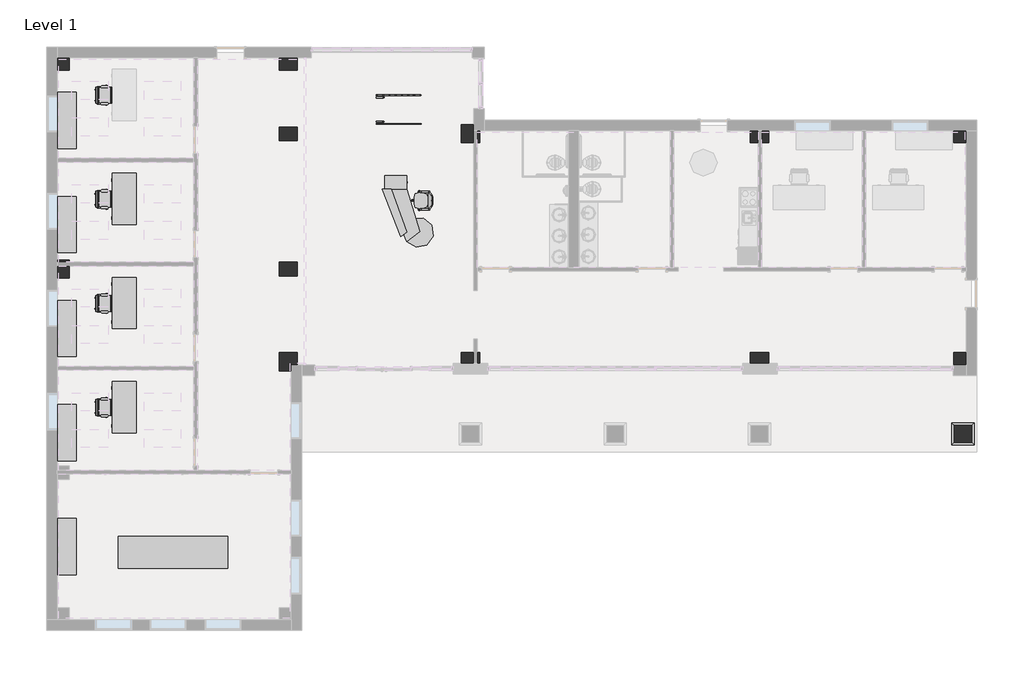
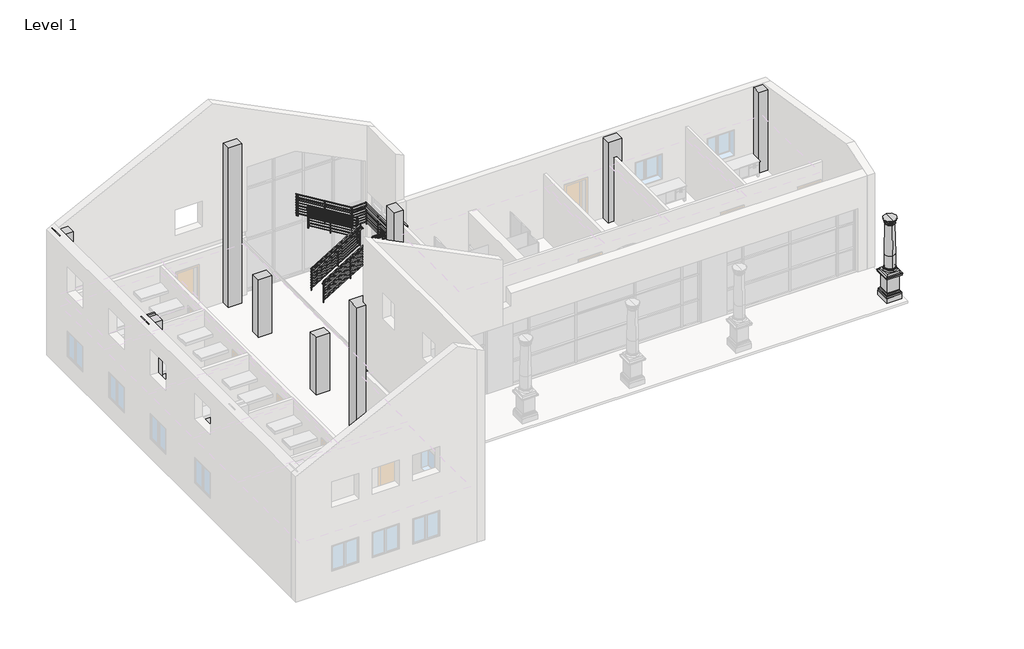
# One storey, part 7 of 8: 15 furniture elements, 13 columns, 2 railings.
"""IFC4 building model written with IfcOpenShell, lengths in millimetres."""

from ifc_helpers import new_model, si_unit, point, frame, origin, origin_with_axes, place, context, project, spatial, polyline, circle_curve, ellipse_curve, trimmed, outline, extrude, faceted_brep, transform, mapped, element, save
from ifc_brep_helpers import plane_surface, cylinder_surface, revolved_surface, advanced_brep
from components import chair_executive_chair_executive_8d69e98c, chair_task_arms_chair_task_arms_8395c10b, conference_table_complete_42_x_144_00e9c4b6, furniture_5a5a5c8e, desk_reception_desk_reception_8679d896, furniture_9d33da18, guardrail_pipe_b2484e20, guardrail_pipe_78582fdc

model = new_model("IFC4")

# Units and contexts
model_context = context("Model", 3, world=origin())
ifc_project = project(units=[si_unit("LENGTHUNIT", "METRE", prefix="MILLI")], contexts=[model_context])

# Site, building, storey
site = spatial("IfcSite", under=ifc_project)
building = spatial("IfcBuilding", under=site)
storey = spatial("IfcBuildingStorey", under=building, Name="Level 1", Elevation=0.0)

# Columns
placement = place(None, origin())
element("IfcColumn", 1, ObjectType="Doric Column : 16'  Height (10 2/3 x Dia.)", at=placement, inside=storey, context=model_context, shape_type="SolidModel", body=[
    extrude(outline(polyline([(16988.3733448, -1720.0769576), (16988.3733448, -2297.9269576), (16410.5233448, -2297.9269576), (16410.5233448, -1720.0769576), (16988.3733448, -1720.0769576)])), frame((0.0, 0.0, 1117.6), z_axis=(0.0, 0.0, 1.0), x_axis=(1.0, 0.0, 0.0)), (0.0, 0.0, 1.0), 107.95),
    faceted_brep([(16470.8483448, -2237.6019576, 1117.6), (16327.9733448, -2380.4769576, 1117.6), (17070.9233448, -2380.4769576, 1117.6), (16928.0483448, -2237.6019576, 1117.6), (16470.8483448, -2237.6019576, 1003.3), (16928.0483448, -2237.6019576, 1003.3), (16399.5654277, -2308.8848746, 1003.3), (16999.3312619, -2308.8848746, 1003.3), (16366.0733448, -2342.3769576, 1028.7), (17032.8233448, -2342.3769576, 1028.7), (16340.6733448, -2367.7769576, 1028.7), (17058.2233448, -2367.7769576, 1028.7), (16340.6733448, -2367.7769576, 1092.2), (17058.2233448, -2367.7769576, 1092.2), (16327.9733448, -2380.4769576, 1092.2), (17070.9233448, -2380.4769576, 1092.2), (17070.9233448, -1637.5269576, 1117.6), (16928.0483448, -1780.4019576, 1117.6), (16928.0483448, -1780.4019576, 1003.3), (16999.3312619, -1709.1190405, 1003.3), (17032.8233448, -1675.6269576, 1028.7), (17058.2233448, -1650.2269576, 1028.7), (17058.2233448, -1650.2269576, 1092.2), (17070.9233448, -1637.5269576, 1092.2), (16327.9733448, -1637.5269576, 1117.6), (16470.8483448, -1780.4019576, 1117.6), (16470.8483448, -1780.4019576, 1003.3), (16399.5654277, -1709.1190405, 1003.3), (16366.0733448, -1675.6269576, 1028.7), (16340.6733448, -1650.2269576, 1028.7), (16340.6733448, -1650.2269576, 1092.2), (16327.9733448, -1637.5269576, 1092.2)], [[[0, 1, 2, 3]], [[4, 0, 3, 5]], [[6, 4, 5, 7]], [[8, 6, 7, 9]], [[10, 8, 9, 11]], [[12, 10, 11, 13]], [[14, 12, 13, 15]], [[1, 14, 15, 2]], [[3, 2, 16, 17]], [[5, 3, 17, 18]], [[7, 5, 18, 19]], [[9, 7, 19, 20]], [[11, 9, 20, 21]], [[13, 11, 21, 22]], [[15, 13, 22, 23]], [[2, 15, 23, 16]], [[17, 16, 24, 25]], [[18, 17, 25, 26]], [[19, 18, 26, 27]], [[20, 19, 27, 28]], [[21, 20, 28, 29]], [[22, 21, 29, 30]], [[23, 22, 30, 31]], [[16, 23, 31, 24]], [[25, 24, 1, 0]], [[26, 25, 0, 4]], [[27, 26, 4, 6]], [[28, 27, 6, 8]], [[29, 28, 8, 10]], [[30, 29, 10, 12]], [[31, 30, 12, 14]], [[24, 31, 14, 1]]]),
    advanced_brep(
    [(16699.4483448, -2256.6519576, 1358.9), (16699.4483448, -1761.3519576, 1358.9), (16699.4483448, -1780.4019576, 1377.95), (16699.4483448, -2237.6019576, 1377.95), (16699.4483448, -1780.4019576, 1976.4375), (16699.4483448, -2237.6019576, 1976.4375), (16699.4483448, -2256.6519576, 1339.85), (16699.4483448, -1761.3519576, 1339.85), (16699.4483448, -2256.6519576, 1308.1), (16699.4483448, -1761.3519576, 1308.1), (16699.4483448, -2256.6519576, 1225.55), (16699.4483448, -1761.3519576, 1225.55), (16699.4483448, -2009.0019576, 1225.55), (16699.4483448, -1808.9769576, 3440.1125), (16699.4483448, -2209.0269576, 3440.1125), (16699.4483448, -2301.1019576, 3675.0625601), (16699.4483448, -1716.9019576, 3675.0625601), (16699.4483448, -1716.9019576, 3694.1125), (16699.4483448, -2301.1019576, 3694.1125), (16699.4483448, -2009.0019576, 3694.1125), (16699.4483448, -2282.0518974, 3656.0125), (16699.4483448, -1735.9520177, 3656.0125), (16699.4483448, -2278.8769576, 3656.0125), (16699.4483448, -1739.1269576, 3656.0125), (16699.4483448, -2278.8769576, 3605.2125), (16699.4483448, -1739.1269576, 3605.2125), (16699.4483448, -2272.5269576, 3605.2125), (16699.4483448, -1745.4769576, 3605.2125), (16699.4483448, -2228.0769576, 3560.7625), (16699.4483448, -1789.9269576, 3560.7625), (16699.4483448, -2228.0769576, 3541.7125), (16699.4483448, -1789.9269576, 3541.7125), (16699.4483448, -2209.0269576, 3541.7125), (16699.4483448, -1808.9769576, 3541.7125), (16699.4483448, -2209.0269576, 3459.1625), (16699.4483448, -1808.9769576, 3459.1625), (16699.4483448, -2228.0769576, 3459.1625), (16699.4483448, -1789.9269576, 3459.1625), (16699.4483448, -2228.0769576, 3440.1125), (16699.4483448, -1789.9269576, 3440.1125)],
    [
        (0, 1, circle_curve(frame((16699.4483448, -2009.0019576, 1358.9), z_axis=(0.0, 0.0, 1.0), x_axis=(0.0, 1.0, 0.0)), 247.65)),
        (1, 2, circle_curve(frame((16699.4483448, -1761.3519576, 1377.95), z_axis=(-1.0, 0.0, 0.0), x_axis=(0.0, -1.0, 0.0)), 19.05)),
        (2, 3, circle_curve(frame((16699.4483448, -2009.0019576, 1377.95), z_axis=(0.0, 0.0, -1.0), x_axis=(0.0, 1.0, 0.0)), 228.6)),
        (3, 0, circle_curve(frame((16699.4483448, -2256.6519576, 1377.95), z_axis=(-1.0, 0.0, 0.0), x_axis=(0.0, 1.0, 0.0)), 19.05)),
        (2, 4),
        (4, 5, circle_curve(frame((16699.4483448, -2009.0019576, 1976.4375), z_axis=(0.0, 0.0, -1.0), x_axis=(0.0, 1.0, 0.0)), 228.6)),
        (5, 3),
        (2, 3, circle_curve(frame((16699.4483448, -2009.0019576, 1377.95), z_axis=(0.0, 0.0, 1.0), x_axis=(0.0, 1.0, 0.0)), 228.6)),
        (5, 4, circle_curve(frame((16699.4483448, -2009.0019576, 1976.4375), z_axis=(0.0, 0.0, -1.0), x_axis=(0.0, 1.0, 0.0)), 228.6)),
        (1, 0, circle_curve(frame((16699.4483448, -2009.0019576, 1358.9), z_axis=(0.0, 0.0, 1.0), x_axis=(0.0, 1.0, 0.0)), 247.65)),
        (6, 7, circle_curve(frame((16699.4483448, -2009.0019576, 1339.85), z_axis=(0.0, 0.0, 1.0), x_axis=(0.0, 1.0, 0.0)), 247.65)),
        (7, 1),
        (0, 6),
        (7, 6, circle_curve(frame((16699.4483448, -2009.0019576, 1339.85), z_axis=(0.0, 0.0, 1.0), x_axis=(0.0, 1.0, 0.0)), 247.65)),
        (8, 9, circle_curve(frame((16699.4483448, -2009.0019576, 1308.1), z_axis=(0.0, 0.0, 1.0), x_axis=(0.0, 1.0, 0.0)), 247.65)),
        (9, 7, circle_curve(frame((16699.4483448, -1761.3519576, 1323.975), z_axis=(1.0, 0.0, 0.0), x_axis=(0.0, -1.0, 0.0)), 15.875)),
        (6, 8, circle_curve(frame((16699.4483448, -2256.6519576, 1323.975), z_axis=(1.0, 0.0, 0.0), x_axis=(0.0, 1.0, 0.0)), 15.875)),
        (9, 8, circle_curve(frame((16699.4483448, -2009.0019576, 1308.1), z_axis=(0.0, 0.0, 1.0), x_axis=(0.0, 1.0, 0.0)), 247.65)),
        (10, 11, circle_curve(frame((16699.4483448, -2009.0019576, 1225.55), z_axis=(0.0, 0.0, 1.0), x_axis=(0.0, 1.0, 0.0)), 247.65)),
        (11, 9, circle_curve(frame((16699.4483448, -1761.3519576, 1266.825), z_axis=(1.0, 0.0, 0.0), x_axis=(0.0, -1.0, 0.0)), 41.275)),
        (8, 10, circle_curve(frame((16699.4483448, -2256.6519576, 1266.825), z_axis=(1.0, 0.0, 0.0), x_axis=(0.0, 1.0, 0.0)), 41.275)),
        (11, 10, circle_curve(frame((16699.4483448, -2009.0019576, 1225.55), z_axis=(0.0, 0.0, 1.0), x_axis=(0.0, 1.0, 0.0)), 247.65)),
        (12, 11),
        (10, 12),
        (4, 13),
        (13, 14, circle_curve(frame((16699.4483448, -2009.0019576, 3440.1125), z_axis=(0.0, 0.0, -1.0), x_axis=(0.0, 1.0, 0.0)), 200.025)),
        (14, 5),
        (14, 13, circle_curve(frame((16699.4483448, -2009.0019576, 3440.1125), z_axis=(0.0, 0.0, -1.0), x_axis=(0.0, 1.0, 0.0)), 200.025)),
        (15, 16, circle_curve(frame((16699.4483448, -2009.0019576, 3675.0625601), z_axis=(0.0, 0.0, 1.0), x_axis=(0.0, 1.0, 0.0)), 292.1)),
        (16, 17),
        (17, 18, circle_curve(frame((16699.4483448, -2009.0019576, 3694.1125), z_axis=(0.0, 0.0, -1.0), x_axis=(0.0, 1.0, 0.0)), 292.1)),
        (18, 15),
        (17, 19),
        (19, 18),
        (17, 18, circle_curve(frame((16699.4483448, -2009.0019576, 3694.1125), z_axis=(0.0, 0.0, 1.0), x_axis=(0.0, 1.0, 0.0)), 292.1)),
        (16, 15, circle_curve(frame((16699.4483448, -2009.0019576, 3675.0625601), z_axis=(0.0, 0.0, 1.0), x_axis=(0.0, 1.0, 0.0)), 292.1)),
        (20, 21, circle_curve(frame((16699.4483448, -2009.0019576, 3656.0125), z_axis=(0.0, 0.0, 1.0), x_axis=(0.0, 1.0, 0.0)), 273.0499399)),
        (21, 16, circle_curve(frame((16699.4483448, -1716.9019576, 3656.0125), z_axis=(-1.0, 0.0, 0.0), x_axis=(0.0, -1.0, 0.0)), 19.0500601)),
        (15, 20, circle_curve(frame((16699.4483448, -2301.1019576, 3656.0125), z_axis=(-1.0, 0.0, 0.0), x_axis=(0.0, 1.0, 0.0)), 19.0500601)),
        (21, 20, circle_curve(frame((16699.4483448, -2009.0019576, 3656.0125), z_axis=(0.0, 0.0, 1.0), x_axis=(0.0, 1.0, 0.0)), 273.0499399)),
        (22, 23, circle_curve(frame((16699.4483448, -2009.0019576, 3656.0125), z_axis=(0.0, 0.0, 1.0), x_axis=(0.0, 1.0, 0.0)), 269.875)),
        (23, 21),
        (20, 22),
        (23, 22, circle_curve(frame((16699.4483448, -2009.0019576, 3656.0125), z_axis=(0.0, 0.0, 1.0), x_axis=(0.0, 1.0, 0.0)), 269.875)),
        (24, 25, circle_curve(frame((16699.4483448, -2009.0019576, 3605.2125), z_axis=(0.0, 0.0, 1.0), x_axis=(0.0, 1.0, 0.0)), 269.875)),
        (25, 23),
        (22, 24),
        (25, 24, circle_curve(frame((16699.4483448, -2009.0019576, 3605.2125), z_axis=(0.0, 0.0, 1.0), x_axis=(0.0, 1.0, 0.0)), 269.875)),
        (26, 27, circle_curve(frame((16699.4483448, -2009.0019576, 3605.2125), z_axis=(0.0, 0.0, 1.0), x_axis=(0.0, 1.0, 0.0)), 263.525)),
        (27, 25),
        (24, 26),
        (27, 26, circle_curve(frame((16699.4483448, -2009.0019576, 3605.2125), z_axis=(0.0, 0.0, 1.0), x_axis=(0.0, 1.0, 0.0)), 263.525)),
        (28, 29, circle_curve(frame((16699.4483448, -2009.0019576, 3560.7625), z_axis=(0.0, 0.0, 1.0), x_axis=(0.0, 1.0, 0.0)), 219.075)),
        (29, 27, circle_curve(frame((16699.4483448, -1789.9269576, 3605.2125), z_axis=(1.0, 0.0, 0.0), x_axis=(0.0, -1.0, 0.0)), 44.45)),
        (26, 28, circle_curve(frame((16699.4483448, -2228.0769576, 3605.2125), z_axis=(1.0, 0.0, 0.0), x_axis=(0.0, 1.0, 0.0)), 44.45)),
        (29, 28, circle_curve(frame((16699.4483448, -2009.0019576, 3560.7625), z_axis=(0.0, 0.0, 1.0), x_axis=(0.0, 1.0, 0.0)), 219.075)),
        (30, 31, circle_curve(frame((16699.4483448, -2009.0019576, 3541.7125), z_axis=(0.0, 0.0, 1.0), x_axis=(0.0, 1.0, 0.0)), 219.075)),
        (31, 29, circle_curve(frame((16699.4483448, -1789.9269576, 3551.2375), z_axis=(1.0, 0.0, 0.0), x_axis=(0.0, -1.0, 0.0)), 9.525)),
        (28, 30, circle_curve(frame((16699.4483448, -2228.0769576, 3551.2375), z_axis=(1.0, 0.0, 0.0), x_axis=(0.0, 1.0, 0.0)), 9.525)),
        (31, 30, circle_curve(frame((16699.4483448, -2009.0019576, 3541.7125), z_axis=(0.0, 0.0, 1.0), x_axis=(0.0, 1.0, 0.0)), 219.075)),
        (32, 33, circle_curve(frame((16699.4483448, -2009.0019576, 3541.7125), z_axis=(0.0, 0.0, 1.0), x_axis=(0.0, 1.0, 0.0)), 200.025)),
        (33, 31),
        (30, 32),
        (33, 32, circle_curve(frame((16699.4483448, -2009.0019576, 3541.7125), z_axis=(0.0, 0.0, 1.0), x_axis=(0.0, 1.0, 0.0)), 200.025)),
        (34, 35, circle_curve(frame((16699.4483448, -2009.0019576, 3459.1625), z_axis=(0.0, 0.0, 1.0), x_axis=(0.0, 1.0, 0.0)), 200.025)),
        (35, 33),
        (32, 34),
        (35, 34, circle_curve(frame((16699.4483448, -2009.0019576, 3459.1625), z_axis=(0.0, 0.0, 1.0), x_axis=(0.0, 1.0, 0.0)), 200.025)),
        (36, 37, circle_curve(frame((16699.4483448, -2009.0019576, 3459.1625), z_axis=(0.0, 0.0, 1.0), x_axis=(0.0, 1.0, 0.0)), 219.075)),
        (37, 35),
        (34, 36),
        (37, 36, circle_curve(frame((16699.4483448, -2009.0019576, 3459.1625), z_axis=(0.0, 0.0, 1.0), x_axis=(0.0, 1.0, 0.0)), 219.075)),
        (38, 39, circle_curve(frame((16699.4483448, -2009.0019576, 3440.1125), z_axis=(0.0, 0.0, 1.0), x_axis=(0.0, 1.0, 0.0)), 219.075)),
        (39, 37, circle_curve(frame((16699.4483448, -1789.9269576, 3449.6375), z_axis=(1.0, 0.0, 0.0), x_axis=(0.0, -1.0, 0.0)), 9.525)),
        (36, 38, circle_curve(frame((16699.4483448, -2228.0769576, 3449.6375), z_axis=(1.0, 0.0, 0.0), x_axis=(0.0, 1.0, 0.0)), 9.525)),
        (39, 38, circle_curve(frame((16699.4483448, -2009.0019576, 3440.1125), z_axis=(0.0, 0.0, 1.0), x_axis=(0.0, 1.0, 0.0)), 219.075)),
        (13, 39),
        (38, 14),
    ],
    [
        revolved_surface(trimmed(ellipse_curve(frame((16699.4483448, -1761.3519576, 1377.95), z_axis=(1.0, 0.0, 0.0), x_axis=(0.0, -1.0, 0.0)), 19.05, 19.05), [point((16699.4483448, -1780.4019576, 1377.95))], [point((16699.4483448, -1761.3519576, 1358.9))], True, "CARTESIAN"), (16699.4483448, -2009.0019576, 3694.1125), (0.0, 0.0, -1.0)),
        cylinder_surface(frame((16699.4483448, -2009.0019576, 3694.1125), z_axis=(0.0, 0.0, -1.0), x_axis=(0.0, 1.0, 0.0)), 228.6),
        cylinder_surface(frame((16699.4483448, -2009.0019576, 3694.1125), z_axis=(0.0, 0.0, -1.0), x_axis=(0.0, 1.0, 0.0)), 247.65),
        revolved_surface(trimmed(ellipse_curve(frame((16699.4483448, -1761.3519576, 1323.975), z_axis=(-1.0, 0.0, 0.0), x_axis=(0.0, -1.0, 0.0)), 15.875, 15.875), [point((16699.4483448, -1761.3519576, 1339.85))], [point((16699.4483448, -1761.3519576, 1308.1))], True, "CARTESIAN"), (16699.4483448, -2009.0019576, 3694.1125), (0.0, 0.0, -1.0)),
        revolved_surface(trimmed(ellipse_curve(frame((16699.4483448, -1761.3519576, 1266.825), z_axis=(-1.0, 0.0, 0.0), x_axis=(0.0, -1.0, 0.0)), 41.275, 41.275), [point((16699.4483448, -1761.3519576, 1308.1))], [point((16699.4483448, -1761.3519576, 1225.55))], True, "CARTESIAN"), (16699.4483448, -2009.0019576, 3694.1125), (0.0, 0.0, -1.0)),
        plane_surface(frame((16699.4483448, -2009.0019576, 1225.55), z_axis=(0.0, 0.0, -1.0), x_axis=(0.0, 1.0, 0.0))),
        revolved_surface(polyline([(16699.4483448, -1808.9769576, 3440.1125), (16699.4483448, -1780.4019576, 1976.4375)]), (16699.4483448, -2009.0019576, 3694.1125), (0.0, 0.0, -1.0)),
        cylinder_surface(frame((16699.4483448, -2009.0019576, 3694.1125), z_axis=(0.0, 0.0, -1.0), x_axis=(0.0, 1.0, 0.0)), 292.1),
        plane_surface(frame((16699.4483448, -2009.0019576, 3694.1125), z_axis=(0.0, 0.0, 1.0), x_axis=(0.0, 1.0, 0.0))),
        revolved_surface(trimmed(ellipse_curve(frame((16699.4483448, -1716.9019576, 3656.0125), z_axis=(1.0, 0.0, 0.0), x_axis=(0.0, -1.0, 0.0)), 19.0500601, 19.0500601), [point((16699.4483448, -1716.9019576, 3675.0625601))], [point((16699.4483448, -1735.9520177, 3656.0125))], True, "CARTESIAN"), (16699.4483448, -2009.0019576, 3694.1125), (0.0, 0.0, -1.0)),
        plane_surface(frame((16699.4483448, -2009.0019576, 3656.0125), z_axis=(0.0, 0.0, -1.0), x_axis=(0.0, 1.0, 0.0))),
        cylinder_surface(frame((16699.4483448, -2009.0019576, 3694.1125), z_axis=(0.0, 0.0, -1.0), x_axis=(0.0, 1.0, 0.0)), 269.875),
        plane_surface(frame((16699.4483448, -2009.0019576, 3605.2125), z_axis=(0.0, 0.0, -1.0), x_axis=(0.0, 1.0, 0.0))),
        revolved_surface(trimmed(ellipse_curve(frame((16699.4483448, -1789.9269576, 3605.2125), z_axis=(-1.0, 0.0, 0.0), x_axis=(0.0, -1.0, 0.0)), 44.45, 44.45), [point((16699.4483448, -1745.4769576, 3605.2125))], [point((16699.4483448, -1789.9269576, 3560.7625))], True, "CARTESIAN"), (16699.4483448, -2009.0019576, 3694.1125), (0.0, 0.0, -1.0)),
        revolved_surface(trimmed(ellipse_curve(frame((16699.4483448, -1789.9269576, 3551.2375), z_axis=(-1.0, 0.0, 0.0), x_axis=(0.0, -1.0, 0.0)), 9.525, 9.525), [point((16699.4483448, -1789.9269576, 3560.7625))], [point((16699.4483448, -1789.9269576, 3541.7125))], True, "CARTESIAN"), (16699.4483448, -2009.0019576, 3694.1125), (0.0, 0.0, -1.0)),
        plane_surface(frame((16699.4483448, -2009.0019576, 3541.7125), z_axis=(0.0, 0.0, -1.0), x_axis=(0.0, 1.0, 0.0))),
        cylinder_surface(frame((16699.4483448, -2009.0019576, 3694.1125), z_axis=(0.0, 0.0, -1.0), x_axis=(0.0, 1.0, 0.0)), 200.025),
        plane_surface(frame((16699.4483448, -2009.0019576, 3459.1625), z_axis=(0.0, 0.0, 1.0), x_axis=(0.0, 1.0, 0.0))),
        revolved_surface(trimmed(ellipse_curve(frame((16699.4483448, -1789.9269576, 3449.6375), z_axis=(-1.0, 0.0, 0.0), x_axis=(0.0, -1.0, 0.0)), 9.525, 9.525), [point((16699.4483448, -1789.9269576, 3459.1625))], [point((16699.4483448, -1789.9269576, 3440.1125))], True, "CARTESIAN"), (16699.4483448, -2009.0019576, 3694.1125), (0.0, 0.0, -1.0)),
        plane_surface(frame((16699.4483448, -2009.0019576, 3440.1125), z_axis=(0.0, 0.0, -1.0), x_axis=(0.0, 1.0, 0.0))),
    ],
    [
        (0, [[1, 2, 3, 4]]),
        (1, [[-3, 5, 6, 7]]),
        (1, [[8, -7, 9, -5]]),
        (0, [[10, -4, -8, -2]]),
        (2, [[11, 12, -1, 13]]),
        (2, [[14, -13, -10, -12]]),
        (3, [[15, 16, -11, 17]]),
        (3, [[18, -17, -14, -16]]),
        (4, [[19, 20, -15, 21]]),
        (4, [[22, -21, -18, -20]]),
        (5, [[23, -19, 24]]),
        (5, [[-24, -22, -23]]),
        (6, [[-6, 25, 26, 27]]),
        (6, [[-9, -27, 28, -25]]),
        (7, [[29, 30, 31, 32]]),
        (8, [[-31, 33, 34]]),
        (8, [[35, -34, -33]]),
        (7, [[36, -32, -35, -30]]),
        (9, [[37, 38, -29, 39]]),
        (9, [[40, -39, -36, -38]]),
        (10, [[41, 42, -37, 43]]),
        (10, [[44, -43, -40, -42]]),
        (11, [[45, 46, -41, 47]]),
        (11, [[48, -47, -44, -46]]),
        (12, [[49, 50, -45, 51]]),
        (12, [[52, -51, -48, -50]]),
        (13, [[53, 54, -49, 55]]),
        (13, [[56, -55, -52, -54]]),
        (14, [[57, 58, -53, 59]]),
        (14, [[60, -59, -56, -58]]),
        (15, [[61, 62, -57, 63]]),
        (15, [[64, -63, -60, -62]]),
        (16, [[65, 66, -61, 67]]),
        (16, [[68, -67, -64, -66]]),
        (17, [[69, 70, -65, 71]]),
        (17, [[72, -71, -68, -70]]),
        (18, [[73, 74, -69, 75]]),
        (18, [[76, -75, -72, -74]]),
        (19, [[-26, 77, -73, 78]]),
        (19, [[-28, -78, -76, -77]]),
    ],
),
    advanced_brep(
    [(17044.8934911, -1663.5568112, -101.6), (17044.8934911, -1663.5568112, 127.0), (17044.8934911, -2354.4471039, 127.0), (17044.8934911, -2354.4471039, -101.6), (16928.0483448, -1780.4019576, -101.6), (16928.0483448, -2237.6019576, -101.6), (16928.0483448, -1780.4019576, 317.5), (16928.0483448, -2237.6019576, 317.5), (16962.3434911, -1746.1068112, 317.5), (16962.3434911, -2271.8971039, 317.5), (16981.3934911, -1727.0568112, 298.45), (16981.3934911, -2290.9471039, 298.45), (16981.3934911, -1727.0568112, 279.4), (16981.3934911, -2290.9471039, 279.4), (17003.6184911, -1704.8318112, 257.175), (17003.6184911, -2313.1721039, 257.175), (17025.8434911, -1682.6068112, 234.95), (17025.8434911, -2335.3971039, 234.95), (17025.8434911, -1682.6068112, 215.9), (17025.8434911, -2335.3971039, 215.9), (17035.3684911, -1673.0818112, 215.9), (17035.3684911, -2344.9221039, 215.9), (17035.3684911, -1673.0818112, 127.0), (17035.3684911, -2344.9221039, 127.0), (16354.0031985, -2354.4471039, 127.0), (16354.0031985, -2354.4471039, -101.6), (16470.8483448, -2237.6019576, -101.6), (16470.8483448, -2237.6019576, 317.5), (16436.5531985, -2271.8971039, 317.5), (16417.5031985, -2290.9471039, 298.45), (16417.5031985, -2290.9471039, 279.4), (16395.2781985, -2313.1721039, 257.175), (16373.0531985, -2335.3971039, 234.95), (16373.0531985, -2335.3971039, 215.9), (16363.5281985, -2344.9221039, 215.9), (16363.5281985, -2344.9221039, 127.0), (16354.0031985, -1663.5568112, 127.0), (16354.0031985, -1663.5568112, -101.6), (16470.8483448, -1780.4019576, -101.6), (16470.8483448, -1780.4019576, 317.5), (16436.5531985, -1746.1068112, 317.5), (16417.5031985, -1727.0568112, 298.45), (16417.5031985, -1727.0568112, 279.4), (16395.2781985, -1704.8318112, 257.175), (16373.0531985, -1682.6068112, 234.95), (16373.0531985, -1682.6068112, 215.9), (16363.5281985, -1673.0818112, 215.9), (16363.5281985, -1673.0818112, 127.0)],
    [
        (0, 1),
        (1, 2),
        (2, 3),
        (3, 0),
        (4, 0),
        (3, 5),
        (5, 4),
        (6, 4),
        (5, 7),
        (7, 6),
        (8, 6),
        (7, 9),
        (9, 8),
        (10, 8, ellipse_curve(frame((16981.3934911, -1727.0568112, 317.5), z_axis=(-0.7071067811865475, 0.7071067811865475, 0.0), x_axis=(-0.7071067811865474, -0.7071067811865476, 0.0)), 26.9407684, 19.05)),
        (9, 11, ellipse_curve(frame((16981.3934911, -2290.9471039, 317.5), z_axis=(-0.7071067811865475, -0.7071067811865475, 0.0), x_axis=(0.7071067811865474, -0.7071067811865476, 0.0)), 26.9407684, 19.05)),
        (11, 10),
        (12, 10),
        (11, 13),
        (13, 12),
        (14, 12, ellipse_curve(frame((16981.3934911, -1727.0568112, 257.175), z_axis=(0.7071067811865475, -0.7071067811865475, 0.0), x_axis=(0.7071067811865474, 0.7071067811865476, 0.0)), 31.4308964, 22.225)),
        (13, 15, ellipse_curve(frame((16981.3934911, -2290.9471039, 257.175), z_axis=(0.7071067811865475, 0.7071067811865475, 0.0), x_axis=(-0.7071067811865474, 0.7071067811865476, 0.0)), 31.4308964, 22.225)),
        (15, 14),
        (16, 14, ellipse_curve(frame((17025.8434911, -1682.6068112, 257.175), z_axis=(-0.7071067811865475, 0.7071067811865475, 0.0), x_axis=(-0.7071067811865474, -0.7071067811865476, 0.0)), 31.4308964, 22.225)),
        (15, 17, ellipse_curve(frame((17025.8434911, -2335.3971039, 257.175), z_axis=(-0.7071067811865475, -0.7071067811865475, 0.0), x_axis=(0.7071067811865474, -0.7071067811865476, 0.0)), 31.4308964, 22.225)),
        (17, 16),
        (18, 16),
        (17, 19),
        (19, 18),
        (20, 18),
        (19, 21),
        (21, 20),
        (22, 20),
        (21, 23),
        (23, 22),
        (1, 22),
        (23, 2),
        (2, 24),
        (24, 25),
        (25, 3),
        (25, 26),
        (26, 5),
        (26, 27),
        (27, 7),
        (27, 28),
        (28, 9),
        (28, 29, ellipse_curve(frame((16417.5031985, -2290.9471039, 317.5), z_axis=(-0.7071067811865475, 0.7071067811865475, 0.0), x_axis=(-0.7071067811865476, -0.7071067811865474, 0.0)), 26.9407684, 19.05)),
        (29, 11),
        (29, 30),
        (30, 13),
        (30, 31, ellipse_curve(frame((16417.5031985, -2290.9471039, 257.175), z_axis=(0.7071067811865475, -0.7071067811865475, 0.0), x_axis=(0.7071067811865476, 0.7071067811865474, 0.0)), 31.4308964, 22.225)),
        (31, 15),
        (31, 32, ellipse_curve(frame((16373.0531985, -2335.3971039, 257.175), z_axis=(-0.7071067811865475, 0.7071067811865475, 0.0), x_axis=(-0.7071067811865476, -0.7071067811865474, 0.0)), 31.4308964, 22.225)),
        (32, 17),
        (32, 33),
        (33, 19),
        (33, 34),
        (34, 21),
        (34, 35),
        (35, 23),
        (35, 24),
        (24, 36),
        (36, 37),
        (37, 25),
        (37, 38),
        (38, 26),
        (38, 39),
        (39, 27),
        (39, 40),
        (40, 28),
        (40, 41, ellipse_curve(frame((16417.5031985, -1727.0568112, 317.5), z_axis=(0.7071067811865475, 0.7071067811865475, 0.0), x_axis=(-0.7071067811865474, 0.7071067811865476, 0.0)), 26.9407684, 19.05)),
        (41, 29),
        (41, 42),
        (42, 30),
        (42, 43, ellipse_curve(frame((16417.5031985, -1727.0568112, 257.175), z_axis=(-0.7071067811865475, -0.7071067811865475, 0.0), x_axis=(0.7071067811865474, -0.7071067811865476, 0.0)), 31.4308964, 22.225)),
        (43, 31),
        (43, 44, ellipse_curve(frame((16373.0531985, -1682.6068112, 257.175), z_axis=(0.7071067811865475, 0.7071067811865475, 0.0), x_axis=(-0.7071067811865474, 0.7071067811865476, 0.0)), 31.4308964, 22.225)),
        (44, 32),
        (44, 45),
        (45, 33),
        (45, 46),
        (46, 34),
        (46, 47),
        (47, 35),
        (47, 36),
        (36, 1),
        (0, 37),
        (4, 38),
        (6, 39),
        (8, 40),
        (10, 41),
        (12, 42),
        (14, 43),
        (16, 44),
        (18, 45),
        (20, 46),
        (22, 47),
    ],
    [
        plane_surface(frame((17044.8934911, -1663.5568112, 127.0), z_axis=(1.0, 0.0, 0.0), x_axis=(0.0, -1.0, 0.0))),
        plane_surface(frame((17044.8934911, -1663.5568112, -101.6), z_axis=(0.0, 0.0, -1.0), x_axis=(0.0, -1.0, 0.0))),
        plane_surface(frame((16928.0483448, -1780.4019576, -101.6), z_axis=(-1.0, 0.0, 0.0), x_axis=(0.0, -1.0, 0.0))),
        plane_surface(frame((16928.0483448, -1780.4019576, 317.5), z_axis=(0.0, 0.0, 1.0), x_axis=(0.0, -1.0, 0.0))),
        revolved_surface(polyline([(17000.4434911, -2309.9971039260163, 317.5), (17000.4434911, -1708.0068111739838, 317.5)]), (16981.3934911, -1650.5418844, 317.5), (0.0, -1.0, 0.0)),
        plane_surface(frame((16981.3934911, -1727.0568112, 298.45), z_axis=(1.0, 0.0, 0.0), x_axis=(0.0, -1.0, 0.0))),
        cylinder_surface(frame((16981.3934911, -1650.5418844, 257.175), z_axis=(0.0, 1.0, 0.0), x_axis=(1.0, 0.0, 0.0)), 22.225),
        revolved_surface(polyline([(17048.0684911, -2357.622103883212, 257.175), (17048.0684911, -1660.3818112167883, 257.175)]), (17025.8434911, -1650.5418844, 257.175), (0.0, -1.0, 0.0)),
        plane_surface(frame((17025.8434911, -1682.6068112, 234.95), z_axis=(1.0, 0.0, 0.0), x_axis=(0.0, -1.0, 0.0))),
        plane_surface(frame((17025.8434911, -1682.6068112, 215.9), z_axis=(0.0, 0.0, 1.0), x_axis=(0.0, -1.0, 0.0))),
        plane_surface(frame((17035.3684911, -1673.0818112, 215.9), z_axis=(1.0, 0.0, 0.0), x_axis=(0.0, -1.0, 0.0))),
        plane_surface(frame((17035.3684911, -1673.0818112, 127.0), z_axis=(0.0, 0.0, 1.0), x_axis=(0.0, -1.0, 0.0))),
        plane_surface(frame((17044.8934911, -2354.4471039, 127.0), z_axis=(0.0, -1.0, 0.0), x_axis=(-1.0, 0.0, 0.0))),
        plane_surface(frame((17044.8934911, -2354.4471039, -101.6), z_axis=(0.0, 0.0, -1.0), x_axis=(-1.0, 0.0, 0.0))),
        plane_surface(frame((16928.0483448, -2237.6019576, -101.6), z_axis=(0.0, 1.0, 0.0), x_axis=(-1.0, 0.0, 0.0))),
        plane_surface(frame((16928.0483448, -2237.6019576, 317.5), z_axis=(0.0, 0.0, 1.0), x_axis=(-1.0, 0.0, 0.0))),
        revolved_surface(polyline([(16398.45319847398, -2309.9971039, 317.5), (17000.443491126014, -2309.9971039, 317.5)]), (17057.908418, -2290.9471039, 317.5), (-1.0, 0.0, 0.0)),
        plane_surface(frame((16981.3934911, -2290.9471039, 298.45), z_axis=(0.0, -1.0, 0.0), x_axis=(-1.0, 0.0, 0.0))),
        cylinder_surface(frame((17057.908418, -2290.9471039, 257.175), z_axis=(1.0, 0.0, 0.0), x_axis=(0.0, -1.0, 0.0)), 22.225),
        revolved_surface(polyline([(16350.828198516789, -2357.6221038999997, 257.175), (17048.068491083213, -2357.6221038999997, 257.175)]), (17057.908418, -2335.3971039, 257.175), (-1.0, 0.0, 0.0)),
        plane_surface(frame((17025.8434911, -2335.3971039, 234.95), z_axis=(0.0, -1.0, 0.0), x_axis=(-1.0, 0.0, 0.0))),
        plane_surface(frame((17025.8434911, -2335.3971039, 215.9), z_axis=(0.0, 0.0, 1.0), x_axis=(-1.0, 0.0, 0.0))),
        plane_surface(frame((17035.3684911, -2344.9221039, 215.9), z_axis=(0.0, -1.0, 0.0), x_axis=(-1.0, 0.0, 0.0))),
        plane_surface(frame((17035.3684911, -2344.9221039, 127.0), z_axis=(0.0, 0.0, 1.0), x_axis=(-1.0, 0.0, 0.0))),
        plane_surface(frame((16354.0031985, -2354.4471039, 127.0), z_axis=(-1.0, 0.0, 0.0), x_axis=(0.0, 1.0, 0.0))),
        plane_surface(frame((16354.0031985, -2354.4471039, -101.6), z_axis=(0.0, 0.0, -1.0), x_axis=(0.0, 1.0, 0.0))),
        plane_surface(frame((16470.8483448, -2237.6019576, -101.6), z_axis=(1.0, 0.0, 0.0), x_axis=(0.0, 1.0, 0.0))),
        plane_surface(frame((16470.8483448, -2237.6019576, 317.5), z_axis=(0.0, 0.0, 1.0), x_axis=(0.0, 1.0, 0.0))),
        revolved_surface(polyline([(16398.4531985, -1708.0068111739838, 317.5), (16398.4531985, -2309.9971039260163, 317.5)]), (16417.5031985, -2367.4620307, 317.5), (0.0, 1.0, 0.0)),
        plane_surface(frame((16417.5031985, -2290.9471039, 298.45), z_axis=(-1.0, 0.0, 0.0), x_axis=(0.0, 1.0, 0.0))),
        cylinder_surface(frame((16417.5031985, -2367.4620307, 257.175), z_axis=(0.0, -1.0, 0.0), x_axis=(-1.0, 0.0, 0.0)), 22.225),
        revolved_surface(polyline([(16350.8281985, -1660.3818112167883, 257.175), (16350.8281985, -2357.622103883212, 257.175)]), (16373.0531985, -2367.4620307, 257.175), (0.0, 1.0, 0.0)),
        plane_surface(frame((16373.0531985, -2335.3971039, 234.95), z_axis=(-1.0, 0.0, 0.0), x_axis=(0.0, 1.0, 0.0))),
        plane_surface(frame((16373.0531985, -2335.3971039, 215.9), z_axis=(0.0, 0.0, 1.0), x_axis=(0.0, 1.0, 0.0))),
        plane_surface(frame((16363.5281985, -2344.9221039, 215.9), z_axis=(-1.0, 0.0, 0.0), x_axis=(0.0, 1.0, 0.0))),
        plane_surface(frame((16363.5281985, -2344.9221039, 127.0), z_axis=(0.0, 0.0, 1.0), x_axis=(0.0, 1.0, 0.0))),
        plane_surface(frame((16354.0031985, -1663.5568112, 127.0), z_axis=(0.0, 1.0, 0.0), x_axis=(1.0, 0.0, 0.0))),
        plane_surface(frame((16354.0031985, -1663.5568112, -101.6), z_axis=(0.0, 0.0, -1.0), x_axis=(1.0, 0.0, 0.0))),
        plane_surface(frame((16470.8483448, -1780.4019576, -101.6), z_axis=(0.0, -1.0, 0.0), x_axis=(1.0, 0.0, 0.0))),
        plane_surface(frame((16470.8483448, -1780.4019576, 317.5), z_axis=(0.0, 0.0, 1.0), x_axis=(1.0, 0.0, 0.0))),
        revolved_surface(polyline([(17000.443491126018, -1708.0068112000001, 317.5), (16398.453198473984, -1708.0068112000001, 317.5)]), (16340.9882717, -1727.0568112, 317.5), (1.0, 0.0, 0.0)),
        plane_surface(frame((16417.5031985, -1727.0568112, 298.45), z_axis=(0.0, 1.0, 0.0), x_axis=(1.0, 0.0, 0.0))),
        cylinder_surface(frame((16340.9882717, -1727.0568112, 257.175), z_axis=(-1.0, 0.0, 0.0), x_axis=(0.0, 1.0, 0.0)), 22.225),
        revolved_surface(polyline([(17048.068491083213, -1660.3818112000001, 257.175), (16350.828198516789, -1660.3818112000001, 257.175)]), (16340.9882717, -1682.6068112, 257.175), (1.0, 0.0, 0.0)),
        plane_surface(frame((16373.0531985, -1682.6068112, 234.95), z_axis=(0.0, 1.0, 0.0), x_axis=(1.0, 0.0, 0.0))),
        plane_surface(frame((16373.0531985, -1682.6068112, 215.9), z_axis=(0.0, 0.0, 1.0), x_axis=(1.0, 0.0, 0.0))),
        plane_surface(frame((16363.5281985, -1673.0818112, 215.9), z_axis=(0.0, 1.0, 0.0), x_axis=(1.0, 0.0, 0.0))),
        plane_surface(frame((16363.5281985, -1673.0818112, 127.0), z_axis=(0.0, 0.0, 1.0), x_axis=(1.0, 0.0, 0.0))),
    ],
    [
        (0, [[1, 2, 3, 4]]),
        (1, [[5, -4, 6, 7]]),
        (2, [[8, -7, 9, 10]]),
        (3, [[11, -10, 12, 13]]),
        (4, [[14, -13, 15, 16]]),
        (5, [[17, -16, 18, 19]]),
        (6, [[20, -19, 21, 22]]),
        (7, [[23, -22, 24, 25]]),
        (8, [[26, -25, 27, 28]]),
        (9, [[29, -28, 30, 31]]),
        (10, [[32, -31, 33, 34]]),
        (11, [[35, -34, 36, -2]]),
        (12, [[-3, 37, 38, 39]]),
        (13, [[-6, -39, 40, 41]]),
        (14, [[-9, -41, 42, 43]]),
        (15, [[-12, -43, 44, 45]]),
        (16, [[-15, -45, 46, 47]]),
        (17, [[-18, -47, 48, 49]]),
        (18, [[-21, -49, 50, 51]]),
        (19, [[-24, -51, 52, 53]]),
        (20, [[-27, -53, 54, 55]]),
        (21, [[-30, -55, 56, 57]]),
        (22, [[-33, -57, 58, 59]]),
        (23, [[-36, -59, 60, -37]]),
        (24, [[-38, 61, 62, 63]]),
        (25, [[-40, -63, 64, 65]]),
        (26, [[-42, -65, 66, 67]]),
        (27, [[-44, -67, 68, 69]]),
        (28, [[-46, -69, 70, 71]]),
        (29, [[-48, -71, 72, 73]]),
        (30, [[-50, -73, 74, 75]]),
        (31, [[-52, -75, 76, 77]]),
        (32, [[-54, -77, 78, 79]]),
        (33, [[-56, -79, 80, 81]]),
        (34, [[-58, -81, 82, 83]]),
        (35, [[-60, -83, 84, -61]]),
        (36, [[-62, 85, -1, 86]]),
        (37, [[-64, -86, -5, 87]]),
        (38, [[-66, -87, -8, 88]]),
        (39, [[-68, -88, -11, 89]]),
        (40, [[-70, -89, -14, 90]]),
        (41, [[-72, -90, -17, 91]]),
        (42, [[-74, -91, -20, 92]]),
        (43, [[-76, -92, -23, 93]]),
        (44, [[-78, -93, -26, 94]]),
        (45, [[-80, -94, -29, 95]]),
        (46, [[-82, -95, -32, 96]]),
        (47, [[-84, -96, -35, -85]]),
    ],
),
    extrude(outline(polyline([(16962.9733448, -1745.4769576), (16962.9733448, -2272.5269576), (16435.9233448, -2272.5269576), (16435.9233448, -1745.4769576), (16962.9733448, -1745.4769576)])), frame((0.0, 0.0, 317.5), z_axis=(0.0, 0.0, 1.0), x_axis=(1.0, 0.0, 0.0)), (0.0, 0.0, 1.0), 685.8),
])
element("IfcColumn", 2, ObjectType="Rectangular Column : 18\" x 24\"", at=placement, inside=storey, context=model_context, shape_type="Brep", body=[
    faceted_brep([(-5554.1266552, 3732.9855424, 2743.2), (-6163.7266552, 3732.9855424, 2743.2), (-6163.7266552, 3275.7855424, 2743.2), (-5554.1266552, 3275.7855424, 2743.2), (-5554.1266552, 3732.9855424, 0.0), (-5554.1266552, 3275.7855424, 0.0), (-6163.7266552, 3275.7855424, 0.0), (-6163.7266552, 3732.9855424, 0.0), (-5554.1266552, 3732.9855424, 2647.95), (-5554.1266552, 3732.9855424, 2540.0), (-6163.7266552, 3732.9855424, 2540.0), (-6163.7266552, 3732.9855424, 2647.95), (-6163.7266552, 3275.7855424, 2540.0), (-6163.7266552, 3275.7855424, 2647.95), (-5554.1266552, 3275.7855424, 2540.0), (-5554.1266552, 3275.7855424, 2647.95)], [[[0, 1, 2, 3]], [[4, 5, 6, 7]], [[1, 0, 8, 9, 4, 7, 10, 11]], [[2, 1, 11, 10, 7, 6, 12, 13]], [[3, 2, 13, 12, 6, 5, 14, 15]], [[0, 3, 15, 14, 5, 4, 9, 8]]]),
])
element("IfcColumn", 3, ObjectType="Rectangular Column : 18\" x 24\"", at=placement, inside=storey, context=model_context, shape_type="Brep", body=[
    faceted_brep([(-5554.1266552, 8257.3605424, 2743.2), (-6163.7266552, 8257.3605424, 2743.2), (-6163.7266552, 7800.1605424, 2743.2), (-5554.1266552, 7800.1605424, 2743.2), (-5554.1266552, 8257.3605424, 0.0), (-5554.1266552, 7800.1605424, 0.0), (-6163.7266552, 7800.1605424, 0.0), (-6163.7266552, 8257.3605424, 0.0), (-5554.1266552, 8257.3605424, 2647.95), (-5554.1266552, 8257.3605424, 2540.0), (-6163.7266552, 8257.3605424, 2540.0), (-6163.7266552, 8257.3605424, 2647.95), (-6163.7266552, 7800.1605424, 2540.0), (-6163.7266552, 7800.1605424, 2647.95), (-5554.1266552, 7800.1605424, 2540.0), (-5554.1266552, 7800.1605424, 2647.95)], [[[0, 1, 2, 3]], [[4, 5, 6, 7]], [[1, 0, 8, 9, 4, 7, 10, 11]], [[2, 1, 11, 10, 7, 6, 12, 13]], [[3, 2, 13, 12, 6, 5, 14, 15]], [[0, 3, 15, 14, 5, 4, 9, 8]]]),
])
element("IfcColumn", 4, ObjectType="Rectangular Column : 24\" x 24\"", at=placement, inside=storey, context=model_context, shape_type="Brep", body=[
    faceted_brep([(-13583.7016552, 10156.0105424, 6096.0), (-13174.1266552, 10156.0105424, 6096.0), (-13174.1266552, 10568.7605424, 6096.0), (-13583.7016552, 10568.7605424, 6096.0), (-13174.1266552, 10156.0105424, 0.0), (-13583.7016552, 10156.0105424, 0.0), (-13583.7016552, 10568.7605424, 0.0), (-13174.1266552, 10568.7605424, 0.0), (-13583.7016552, 10568.7605424, 3048.0), (-13583.7016552, 10568.7605424, 2743.2)], [[[0, 1, 2, 3]], [[4, 5, 6, 7]], [[1, 4, 7, 2]], [[5, 0, 3, 8, 9, 6]], [[4, 1, 0, 5]], [[3, 2, 7, 6, 9, 8]]]),
    faceted_brep([(-13783.7266552, 10156.0105424, 6096.0), (-13783.7266552, 10765.6105424, 6096.0), (-13783.7266552, 10765.6105424, 6078.5375), (-13783.7266552, 10156.0105424, 6078.5375), (-13748.8016552, 10156.0105424, 6096.0), (-13748.8016552, 10765.6105424, 6096.0)], [[[0, 1, 2, 3]], [[4, 0, 3]], [[5, 4, 3, 2]], [[1, 0, 4, 5]], [[1, 5, 2]]]),
])
element("IfcColumn", 5, ObjectType="Rectangular Column : 24\" x 24\"", at=placement, inside=storey, context=model_context, shape_type="SweptSolid", body=[
    extrude(outline(polyline([(3729.8105424, 6096.0), (3809.1855424, 6096.0), (3809.1855424, 0.0), (3729.8105424, 0.0), (3729.8105424, 2743.2), (3605.9855424, 2743.2), (3605.9855424, 0.0), (3199.5855424, 0.0), (3199.5855424, 6096.0), (3605.9855424, 6096.0), (3605.9855424, 3048.0), (3729.8105424, 3048.0), (3729.8105424, 6096.0)])), frame((-13583.7016552, 0.0, 0.0), z_axis=(1.0, 0.0, 0.0), x_axis=(0.0, 1.0, 0.0)), (0.0, 0.0, 1.0), 409.575),
    extrude(outline(polyline([(6096.0, -13748.8016552), (6096.0, -13783.7266552), (6078.5375, -13783.7266552), (6096.0, -13748.8016552)])), frame((0.0, 3199.5855424, 0.0), z_axis=(0.0, 1.0, 0.0), x_axis=(0.0, 0.0, 1.0)), (0.0, 0.0, 1.0), 609.6),
])
element("IfcColumn", 6, ObjectType="Rectangular Column : 24\" x 24\"", at=placement, inside=storey, context=model_context, shape_type="Brep", body=[
    faceted_brep([(-5554.1266552, 707.2105424, 6096.0), (-6163.7266552, 707.2105424, 6096.0), (-6163.7266552, 97.6105424, 6096.0), (-5754.1516552, 97.6105424, 6096.0), (-5754.1516552, 300.8105424, 6096.0), (-5554.1266552, 300.8105424, 6096.0), (-6163.7266552, 97.6105424, 0.0), (-6163.7266552, 707.2105424, 0.0), (-5554.1266552, 707.2105424, 0.0), (-5554.1266552, 300.8105424, 0.0), (-5754.1516552, 300.8105424, 0.0), (-5754.1516552, 97.6105424, 0.0), (-5754.1516552, 300.8105424, 2743.2), (-5754.1516552, 300.8105424, 3048.0)], [[[0, 1, 2, 3, 4, 5]], [[6, 7, 8, 9, 10, 11]], [[1, 0, 8, 7]], [[2, 1, 7, 6]], [[2, 6, 11, 3]], [[8, 0, 5, 9]], [[10, 12, 13, 4, 3, 11]], [[4, 13, 12, 10, 9, 5]]]),
])
element("IfcColumn", 7, ObjectType="Rectangular Column : 24\" x 24\"", at=placement, inside=storey, context=model_context, shape_type="Brep", body=[
    faceted_brep([(-67.7266552, 8333.5605424, 3860.8), (-67.7266552, 7723.9605424, 3860.8), (341.8483448, 7723.9605424, 3860.8), (341.8483448, 8130.3605424, 3860.8), (341.8483448, 8333.5605424, 3860.8), (-67.7266552, 7723.9605424, 0.0), (-67.7266552, 8333.5605424, 0.0), (341.8483448, 8333.5605424, 0.0), (341.8483448, 8130.3605424, 0.0), (341.8483448, 7723.9605424, 0.0), (341.8483448, 7723.9605424, 3048.0), (341.8483448, 8130.3605424, 3048.0)], [[[0, 1, 2, 3, 4]], [[5, 6, 7, 8, 9]], [[6, 0, 4, 7]], [[1, 0, 6, 5]], [[1, 5, 9, 10, 2]], [[9, 8, 11, 10]], [[3, 2, 10, 11]], [[4, 3, 11, 8, 7]]]),
    faceted_brep([(541.8733448, 7723.9605424, 3048.0), (541.8733448, 7723.9605424, 0.0), (541.8733448, 8130.3605424, 0.0), (541.8733448, 8130.3605424, 3048.0), (465.6733448, 8130.3605424, 0.0), (465.6733448, 7723.9605424, 0.0), (465.6733448, 7723.9605424, 3048.0), (465.6733448, 8130.3605424, 3048.0)], [[[0, 1, 2, 3]], [[4, 5, 6, 7]], [[6, 0, 3, 7]], [[5, 1, 0, 6]], [[2, 4, 7, 3]], [[1, 5, 4, 2]]]),
])
element("IfcColumn", 8, ObjectType="Rectangular Column : 24\" x 24\"", at=placement, inside=storey, context=model_context, shape_type="SweptSolid", body=[
    extrude(outline(polyline([(3860.8, 10197.0483448), (3860.8, 9587.4483448), (0.0, 9587.4483448), (0.0, 9847.7983448), (3048.0, 9847.7983448), (3048.0, 9971.6233448), (0.0, 9971.6233448), (0.0, 10197.0483448), (3860.8, 10197.0483448)])), frame((0.0, 7723.9605424, 0.0), z_axis=(0.0, 1.0, 0.0), x_axis=(0.0, 0.0, 1.0)), (0.0, 0.0, 1.0), 406.4),
])
element("IfcColumn", 9, ObjectType="Rectangular Column : 24\" x 24\"", at=placement, inside=storey, context=model_context, shape_type="SweptSolid", body=[
    extrude(outline(polyline([(16394.6483448, 7723.9605424), (16394.6483448, 8130.3605424), (16801.0483448, 8130.3605424), (16801.0483448, 7723.9605424), (16394.6483448, 7723.9605424)])), origin_with_axes(), (0.0, 0.0, 1.0), 3860.8),
])
element("IfcColumn", 10, ObjectType="Rectangular Column : 24\" x 24\"", at=placement, inside=storey, context=model_context, shape_type="SweptSolid", body=[
    extrude(outline(polyline([(16394.6483448, 707.2105424), (16801.0483448, 707.2105424), (16801.0483448, 300.8105424), (16394.6483448, 300.8105424), (16394.6483448, 707.2105424)])), origin_with_axes(), (0.0, 0.0, 1.0), 3860.8),
])
element("IfcColumn", 11, ObjectType="Rectangular Column : 24\" x 24\"", at=placement, inside=storey, context=model_context, shape_type="SweptSolid", body=[
    extrude(outline(polyline([(707.2105424, 3860.8), (707.2105424, 0.0), (351.6105424, 0.0), (351.6105424, 3048.0), (300.8105424, 3048.0), (300.8105424, 3860.8), (707.2105424, 3860.8)])), frame((9587.4483448, 0.0, 0.0), z_axis=(1.0, 0.0, 0.0), x_axis=(0.0, 1.0, 0.0)), (0.0, 0.0, 1.0), 609.6),
])
element("IfcColumn", 12, ObjectType="Rectangular Column : 24\" x 24\"", at=placement, inside=storey, context=model_context, shape_type="SweptSolid", body=[
    extrude(outline(polyline([(-5554.1266552, 10156.0105424), (-6163.7266552, 10156.0105424), (-6163.7266552, 10568.7605424), (-5554.1266552, 10568.7605424), (-5554.1266552, 10156.0105424)])), origin_with_axes(), (0.0, 0.0, 1.0), 7620.0),
])
element("IfcColumn", 13, ObjectType="Rectangular Column : 24\" x 24\"", at=placement, inside=storey, context=model_context, shape_type="SweptSolid", body=[
    extrude(outline(polyline([(541.8733448, 707.2105424), (541.8733448, 351.6105424), (465.6733448, 351.6105424), (465.6733448, 707.2105424), (541.8733448, 707.2105424)])), origin_with_axes(), (0.0, 0.0, 1.0), 3048.0),
    extrude(outline(polyline([(-67.7266552, 351.6105424), (-67.7266552, 707.2105424), (341.8483448, 707.2105424), (341.8483448, 351.6105424), (-67.7266552, 351.6105424)])), origin_with_axes(), (0.0, 0.0, 1.0), 3048.0),
])

# Furniture
chair_executive_chair_executive_shape = chair_executive_chair_executive_8d69e98c(model_context)
element("IfcFurniture", 14, ObjectType="Chair-Executive : Chair-Executive", at=placement, inside=storey, context=model_context, shape_type="MappedRepresentation", body=[
    mapped(chair_executive_chair_executive_shape, transform((-1369.5807535, 5652.5697228, 0.0), x_axis=(0.0, 1.0, 0.0), y_axis=(-1.0, 0.0, 0.0), z_axis=(0.0, 0.0, 1.0))),
])
chair_task_arms_chair_task_arms_shape = chair_task_arms_chair_task_arms_8395c10b(model_context)
element("IfcFurniture", 15, ObjectType="Chair-Task Arms : Chair-Task Arms", at=placement, inside=storey, context=model_context, shape_type="MappedRepresentation", body=[
    mapped(chair_task_arms_chair_task_arms_shape, transform((-12048.1356286, -1267.3427772, 0.0), x_axis=(0.0, 1.0, 0.0), y_axis=(-1.0, 0.0, 0.0), z_axis=(0.0, 0.0, 1.0))),
])
element("IfcFurniture", 16, ObjectType="Chair-Task Arms : Chair-Task Arms", at=placement, inside=storey, context=model_context, shape_type="MappedRepresentation", body=[
    mapped(chair_task_arms_chair_task_arms_shape, transform((-12048.1356286, 2214.0447228, 0.0), x_axis=(0.0, 1.0, 0.0), y_axis=(-1.0, 0.0, 0.0), z_axis=(0.0, 0.0, 1.0))),
])
element("IfcFurniture", 17, ObjectType="Chair-Task Arms : Chair-Task Arms", at=placement, inside=storey, context=model_context, shape_type="MappedRepresentation", body=[
    mapped(chair_task_arms_chair_task_arms_shape, transform((-12048.1356286, 5695.4322228, 0.0), x_axis=(0.0, 1.0, 0.0), y_axis=(-1.0, 0.0, 0.0), z_axis=(0.0, 0.0, 1.0))),
])
element("IfcFurniture", 18, ObjectType="Chair-Task Arms : Chair-Task Arms", at=placement, inside=storey, context=model_context, shape_type="MappedRepresentation", body=[
    mapped(chair_task_arms_chair_task_arms_shape, transform((-12048.1356286, 9176.8197228, 0.0), x_axis=(0.0, 1.0, 0.0), y_axis=(-1.0, 0.0, 0.0), z_axis=(0.0, 0.0, 1.0))),
])
conference_table_complete_42_x_144_shape = conference_table_complete_42_x_144_00e9c4b6(model_context)
element("IfcFurniture", 19, ObjectType="Conference Table-Complete : 42 x 144", at=placement, inside=storey, context=model_context, shape_type="MappedRepresentation", body=[
    mapped(conference_table_complete_42_x_144_shape, transform((-9715.5836955, -5969.8356111, 0.0), x_axis=(1.0, 0.0, 0.0), y_axis=(0.0, 1.0, 0.0), z_axis=(0.0, 0.0, 1.0))),
])
furniture_shape = furniture_5a5a5c8e(model_context)
element("IfcFurniture", 20, ObjectType="Credenza : 72\" x 24\"", at=placement, inside=storey, context=model_context, shape_type="MappedRepresentation", body=[
    mapped(furniture_shape, transform((-13274.3213273, -1908.6485326, 0.0), x_axis=(0.0, -1.0000000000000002, 0.0), y_axis=(1.0000000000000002, 0.0, 0.0), z_axis=(0.0, 0.0, 1.0))),
])
element("IfcFurniture", 21, ObjectType="Credenza : 72\" x 24\"", at=placement, inside=storey, context=model_context, shape_type="MappedRepresentation", body=[
    mapped(furniture_shape, transform((-13274.3213273, -5718.6485326, 0.0), x_axis=(0.0, -1.0000000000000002, 0.0), y_axis=(1.0000000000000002, 0.0, 0.0), z_axis=(0.0, 0.0, 1.0))),
])
element("IfcFurniture", 22, ObjectType="Credenza : 72\" x 24\"", at=placement, inside=storey, context=model_context, shape_type="MappedRepresentation", body=[
    mapped(furniture_shape, transform((-13274.3213273, 1572.7389674, 0.0), x_axis=(0.0, -1.0, 0.0), y_axis=(1.0, 0.0, 0.0), z_axis=(0.0, 0.0, 1.0))),
])
element("IfcFurniture", 23, ObjectType="Credenza : 72\" x 24\"", at=placement, inside=storey, context=model_context, shape_type="MappedRepresentation", body=[
    mapped(furniture_shape, transform((-13274.3213273, 5054.1264674, 0.0), x_axis=(0.0, -1.0, 0.0), y_axis=(1.0, 0.0, 0.0), z_axis=(0.0, 0.0, 1.0))),
])
element("IfcFurniture", 24, ObjectType="Credenza : 72\" x 24\"", at=placement, inside=storey, context=model_context, shape_type="MappedRepresentation", body=[
    mapped(furniture_shape, transform((-13274.3213273, 8535.5139674, 0.0), x_axis=(0.0, -1.0, 0.0), y_axis=(1.0, 0.0, 0.0), z_axis=(0.0, 0.0, 1.0))),
])
desk_reception_desk_reception_shape = desk_reception_desk_reception_8679d896(model_context)
element("IfcFurniture", 25, ObjectType="Desk-Reception : Desk-Reception", at=placement, inside=storey, context=model_context, shape_type="MappedRepresentation", body=[
    mapped(desk_reception_desk_reception_shape, transform((-1896.5266552, 6172.9730424, 0.0), x_axis=(0.0, 1.0000000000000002, 0.0), y_axis=(-1.0000000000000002, 0.0, 0.0), z_axis=(0.0, 0.0, 1.0))),
])
furniture_2_shape = furniture_9d33da18(model_context)
element("IfcFurniture", 26, ObjectType="Desk1 : 66\" x 30\"", at=placement, inside=storey, context=model_context, shape_type="MappedRepresentation", body=[
    mapped(furniture_2_shape, transform((-10962.389727, -275.4519576, 0.0), x_axis=(0.0, -1.0000000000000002, 0.0), y_axis=(1.0000000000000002, 0.0, 0.0), z_axis=(0.0, 0.0, 1.0))),
])
element("IfcFurniture", 27, ObjectType="Desk1 : 66\" x 30\"", at=placement, inside=storey, context=model_context, shape_type="MappedRepresentation", body=[
    mapped(furniture_2_shape, transform((-10962.389727, 3205.9355424, 0.0), x_axis=(0.0, -1.0, 0.0), y_axis=(1.0, 0.0, 0.0), z_axis=(0.0, 0.0, 1.0))),
])
element("IfcFurniture", 28, ObjectType="Desk1 : 66\" x 30\"", at=placement, inside=storey, context=model_context, shape_type="MappedRepresentation", body=[
    mapped(furniture_2_shape, transform((-10962.389727, 6687.3230424, 0.0), x_axis=(0.0, -1.0, 0.0), y_axis=(1.0, 0.0, 0.0), z_axis=(0.0, 0.0, 1.0))),
])

# Railings
guardrail_pipe_shape = guardrail_pipe_b2484e20(model_context)
element("IfcRailing", 29, ObjectType="Guardrail - Pipe", at=placement, inside=storey, context=model_context, shape_type="MappedRepresentation", body=[
    mapped(guardrail_pipe_shape, transform((0.0, 0.0, 0.0), x_axis=(1.0, 0.0, 0.0), y_axis=(0.0, 1.0, 0.0), z_axis=(0.0, 0.0, 1.0))),
])
guardrail_pipe_2_shape = guardrail_pipe_78582fdc(model_context)
element("IfcRailing", 30, ObjectType="Guardrail - Pipe", at=placement, inside=storey, context=model_context, shape_type="MappedRepresentation", body=[
    mapped(guardrail_pipe_2_shape, transform((0.0, 0.0, 0.0), x_axis=(1.0, 0.0, 0.0), y_axis=(0.0, 1.0, 0.0), z_axis=(0.0, 0.0, 1.0))),
])

save(model, "model.ifc")
